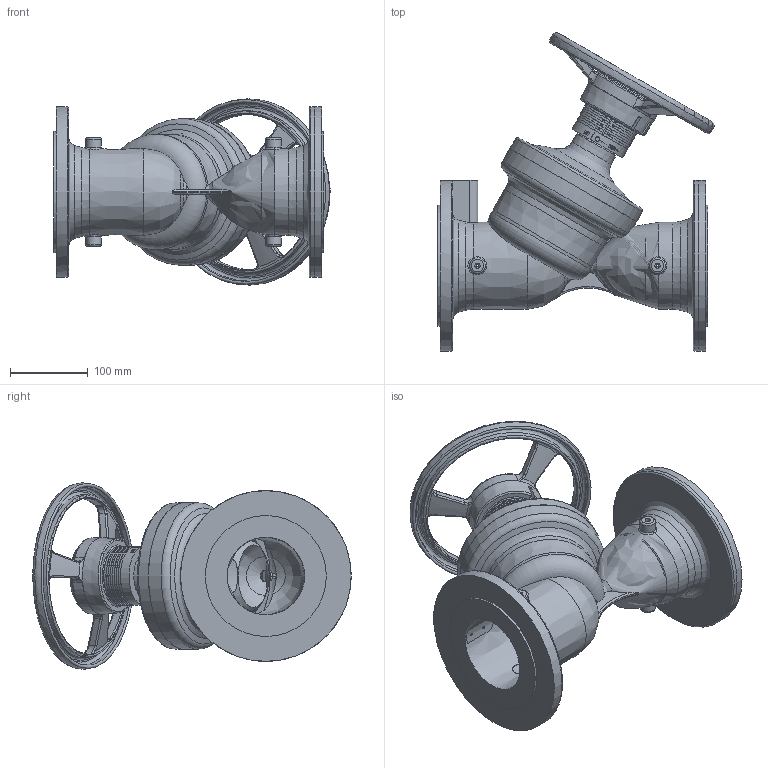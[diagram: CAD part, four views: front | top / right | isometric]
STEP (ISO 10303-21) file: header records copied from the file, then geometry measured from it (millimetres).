
FILE_DESCRIPTION((''),'2;1');
FILE_NAME('P:\Fastrack\53972_CRANE 3D\DM921-941\WORKSPACE\DM921-941\DM921_DN100\DM921_DN100.stp','2011-02-25T14:17:57',('btaylor'),(''),'Autodesk Inventor 2008','Autodesk Inventor 2008','');
FILE_SCHEMA(('AUTOMOTIVE_DESIGN { 1 0 10303 214 1 1 1 1 }'));
Length unit declared in the file: millimetre
Products named in the file (1): DM921_DN100
Bounding box: 355.95 x 410.31 x 239.95 mm (x, y, z)
Volume: 3486968.3 mm3; surface area: 675192.1 mm2
Topology: 1 solids, 1 shells, 867 faces, 2246 edges, 1427 vertices
Faces by surface type: plane 341, bspline 273, cylinder 152, cone 59, torus 42
Full cylindrical faces by diameter (mm): 6 x2, 8 x2, 9.5 x6, 17.3 x1, 17.4 x1, 20 x6, 24 x1, 24.5 x1, 27.4 x1, 28.4 x1, 30 x1, 32.629 x1, 46 x2, 50 x1, 61 x1, 68 x1, 69 x1, 75 x1, 80 x1, 112 x1, 139.6 x1, 140 x1, 156 x2, 220 x2
Entity records: 73801 total; most frequent: CARTESIAN_POINT 54204, ORIENTED_EDGE 4162, DIRECTION 3131, EDGE_CURVE 2081, VERTEX_POINT 1380, AXIS2_PLACEMENT_3D 1152, EDGE_LOOP 1082, STYLED_ITEM 868
